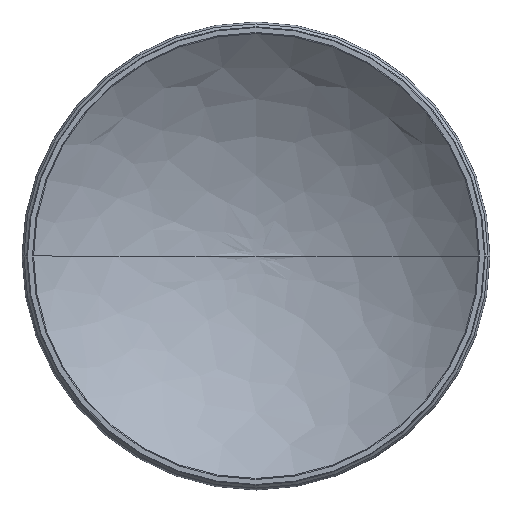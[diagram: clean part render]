
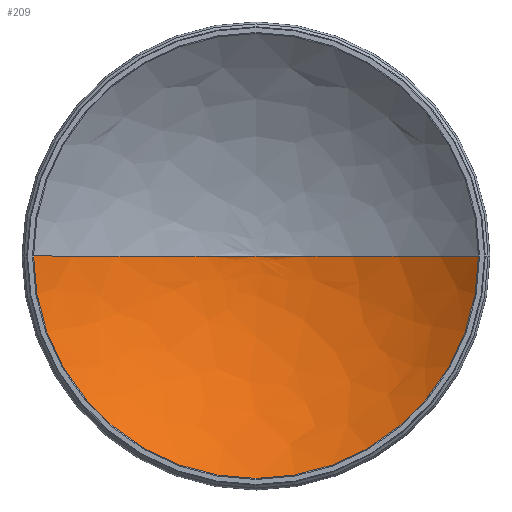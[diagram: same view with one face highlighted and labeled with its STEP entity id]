
A CAD part, left-side view. The second image highlights one B-rep face of the part: STEP entity #209.
In plain terms, the highlighted free-form (B-spline) face has degree [3, 3] with [4, 4] control points.
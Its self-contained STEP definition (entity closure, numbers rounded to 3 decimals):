
#209=ADVANCED_FACE('',(#249),#213,.T.);
#213=(
BOUNDED_SURFACE()
B_SPLINE_SURFACE(3,3,((#1113,#1114,#1115,#1116),(#1117,#1118,#1119,#1120),
(#1121,#1122,#1123,#1124),(#1125,#1126,#1127,#1128)),.UNSPECIFIED.,.F.,.F.,
 .F.)
B_SPLINE_SURFACE_WITH_KNOTS((4,4),(4,4),(0.,1.),(0.,1.),.UNSPECIFIED.)
GEOMETRIC_REPRESENTATION_ITEM()
RATIONAL_B_SPLINE_SURFACE(((1.,0.333,0.333,1.),(0.953,
0.318,0.318,0.953),(0.953,
0.318,0.318,0.953),(1.,0.333,
0.333,1.)))
REPRESENTATION_ITEM('')
SURFACE()
);
#249=FACE_OUTER_BOUND('',#287,.T.);
#287=EDGE_LOOP('',(#427,#428,#429));
#427=ORIENTED_EDGE('',*,*,#540,.T.);
#428=ORIENTED_EDGE('',*,*,#541,.T.);
#429=ORIENTED_EDGE('',*,*,#542,.F.);
#468=VERTEX_POINT('',#1103);
#469=VERTEX_POINT('',#1104);
#470=VERTEX_POINT('',#1111);
#540=EDGE_CURVE('',#468,#469,#592,.T.);
#541=EDGE_CURVE('',#469,#470,#593,.T.);
#542=EDGE_CURVE('',#468,#470,#594,.T.);
#592=CIRCLE('',#677,132.87);
#593=CIRCLE('',#679,193.884);
#594=CIRCLE('',#680,193.884);
#677=AXIS2_PLACEMENT_3D('',#1108,#861,#862);
#679=AXIS2_PLACEMENT_3D('',#1110,#865,#866);
#680=AXIS2_PLACEMENT_3D('',#1112,#867,#868);
#861=DIRECTION('',(-1.,0.,0.));
#862=DIRECTION('',(0.,1.,0.));
#865=DIRECTION('',(0.,0.,1.));
#866=DIRECTION('',(0.728,-0.685,0.));
#867=DIRECTION('',(0.,0.,-1.));
#868=DIRECTION('',(0.728,0.685,0.));
#1103=CARTESIAN_POINT('',(26.39,62.973,0.));
#1104=CARTESIAN_POINT('',(26.39,-202.766,0.));
#1108=CARTESIAN_POINT('',(26.39,-69.897,0.));
#1110=CARTESIAN_POINT('',(-114.807,-69.896,0.));
#1111=CARTESIAN_POINT('',(79.077,-69.897,0.));
#1112=CARTESIAN_POINT('',(-114.807,-69.897,0.));
#1113=CARTESIAN_POINT('',(26.39,-202.766,0.));
#1114=CARTESIAN_POINT('',(26.39,-202.766,-265.739));
#1115=CARTESIAN_POINT('',(26.39,62.973,-265.739));
#1116=CARTESIAN_POINT('',(26.39,62.973,0.));
#1117=CARTESIAN_POINT('',(60.65,-166.36,0.));
#1118=CARTESIAN_POINT('',(60.65,-166.36,-192.926));
#1119=CARTESIAN_POINT('',(60.65,26.567,-192.926));
#1120=CARTESIAN_POINT('',(60.65,26.567,0.));
#1121=CARTESIAN_POINT('',(79.077,-119.888,0.));
#1122=CARTESIAN_POINT('',(79.077,-119.888,-99.983));
#1123=CARTESIAN_POINT('',(79.077,-19.905,-99.983));
#1124=CARTESIAN_POINT('',(79.077,-19.905,0.));
#1125=CARTESIAN_POINT('',(79.077,-69.897,0.));
#1126=CARTESIAN_POINT('',(79.077,-69.897,0.));
#1127=CARTESIAN_POINT('',(79.077,-69.897,0.));
#1128=CARTESIAN_POINT('',(79.077,-69.897,0.));
